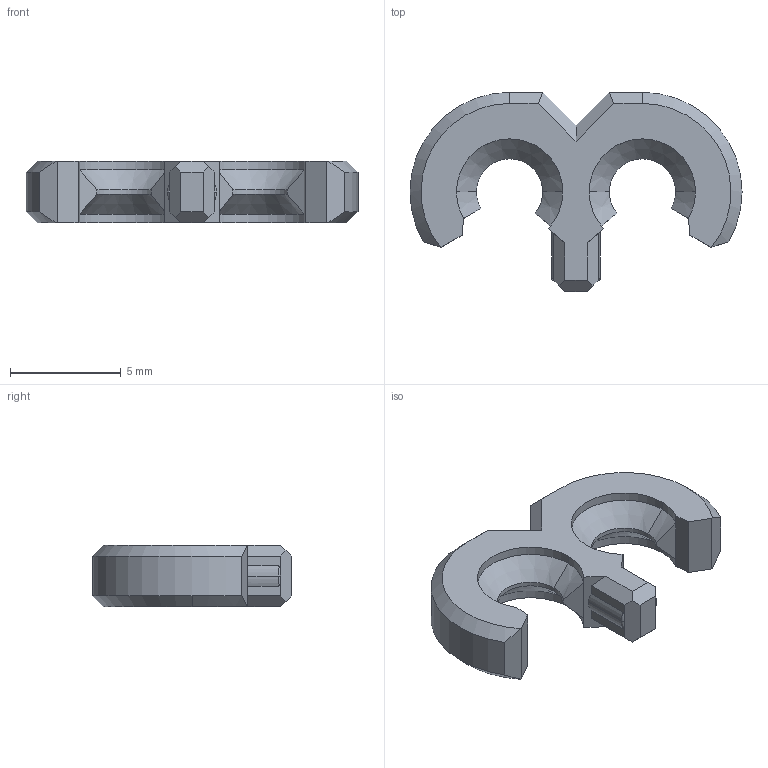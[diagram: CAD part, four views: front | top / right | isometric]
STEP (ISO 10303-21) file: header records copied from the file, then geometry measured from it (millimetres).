
FILE_DESCRIPTION (( 'STEP AP214' ), '1' );
FILE_NAME ('AxialJointdDouble.STEP', '2023-12-23T22:25:08', ( '' ), ( '' ), 'SwSTEP 2.0', 'SolidWorks 2023', '' );
FILE_SCHEMA (( 'AUTOMOTIVE_DESIGN' ));
Length unit declared in the file: millimetre
Products named in the file (1): AxialJointdDouble
Bounding box: 15 x 9 x 2.8 mm (x, y, z)
Volume: 167.7 mm3; surface area: 269 mm2
Topology: 1 solids, 1 shells, 87 faces, 215 edges, 130 vertices
Faces by surface type: plane 41, cylinder 24, cone 18, torus 4
Entity records: 2578 total; most frequent: CARTESIAN_POINT 493, DIRECTION 433, ORIENTED_EDGE 430, EDGE_CURVE 215, LINE 149, VECTOR 149, AXIS2_PLACEMENT_3D 142, VERTEX_POINT 130
